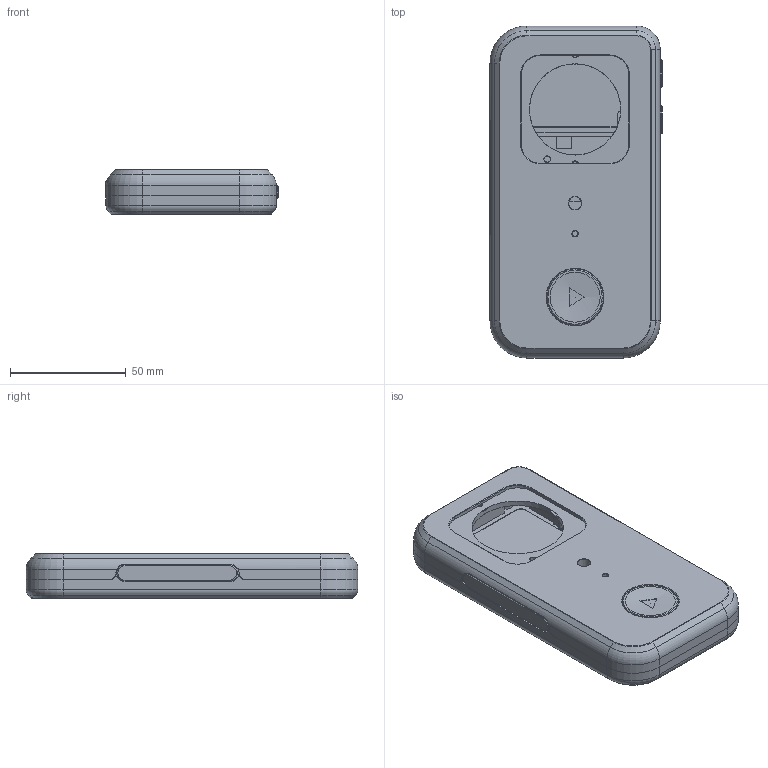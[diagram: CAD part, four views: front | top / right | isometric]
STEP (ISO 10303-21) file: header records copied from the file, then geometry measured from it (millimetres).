
FILE_DESCRIPTION(('Open CASCADE Model'),'2;1');
FILE_NAME('Open CASCADE Shape Model','2026-09-21T11:06:54',('Author'),( 'Open CASCADE'),'Open CASCADE STEP processor 7.7','Open CASCADE 7.7' ,'Unknown');
FILE_SCHEMA(('AUTOMOTIVE_DESIGN { 1 0 10303 214 1 1 1 1 }'));
Length unit declared in the file: millimetre
Products named in the file (44): WalkieOne_v31_Printed_Parts; Back; Back_part; Front; Front_part; LED_retainer; LED_retainer_part; PTT_Link_1; PTT_Link_1_part; PTT_Link_2; PTT_Link_2_part; PTT_Pivot_sleeve_fixed_1; PTT_Pivot_sleeve_fixed_1_part; PTT_Pivot_sleeve_fixed_2; PTT_Pivot_sleeve_fixed_2_part; PTT_Pivot_sleeve_moving_1; PTT_Pivot_sleeve_moving_1_part; PTT_Pivot_sleeve_moving_2; PTT_Pivot_sleeve_moving_2_part; PTT_cap; PTT_cap_part; PTT_switch_retainer; PTT_switch_retainer_part; PTT_switch_seat; PTT_switch_seat_part; Play_cap; Play_cap_part; Play_carrier; Play_carrier_part; Play_retainer; Play_retainer_part; Speaker_spacers_reference; Speaker_spacers_reference_part; USB_collar; USB_collar_part; Volume_down_cap; Volume_down_cap_part; Volume_guide_frame; Volume_guide_frame_part; Volume_rear_seat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
Assembly tree (43 placements, depth 4):
  WalkieOne_v31_Printed_Parts
    WalkieOne_v31_Printed_Parts
      Back
        Back_part
      Front
        Front_part
      LED_retainer
        LED_retainer_part
      PTT_Link_1
        PTT_Link_1_part
      PTT_Link_2
        PTT_Link_2_part
      PTT_Pivot_sleeve_fixed_1
        PTT_Pivot_sleeve_fixed_1_part
      PTT_Pivot_sleeve_fixed_2
        PTT_Pivot_sleeve_fixed_2_part
      PTT_Pivot_sleeve_moving_1
        PTT_Pivot_sleeve_moving_1_part
      PTT_Pivot_sleeve_moving_2
        PTT_Pivot_sleeve_moving_2_part
      PTT_cap
        PTT_cap_part
      PTT_switch_retainer
        PTT_switch_retainer_part
      PTT_switch_seat
        PTT_switch_seat_part
      Play_cap
        Play_cap_part
      Play_carrier
        Play_carrier_part
      Play_retainer
        Play_retainer_part
      Speaker_spacers_reference
        Speaker_spacers_reference_part
      USB_collar
        USB_collar_part
      Volume_down_cap
        Volume_down_cap_part
      Volume_guide_frame
        Volume_guide_frame_part
      Volume_rear_seat
        Volume_rear_seat_part
      Volume_up_cap
        Volume_up_cap_part
Bounding box: 74.3 x 143.25 x 19.4 mm (x, y, z)
Volume: 70629.8 mm3; surface area: 71221.5 mm2
Topology: 22 solids, 22 shells, 2141 faces, 5960 edges, 3878 vertices
Faces by surface type: plane 1461, cylinder 466, cone 72, sphere 67, torus 61, bspline 13, revolution 1
Full cylindrical faces by diameter (mm): 0.6 x6, 0.84 x6, 2.2 x2, 2.3 x14, 2.4 x17, 2.6 x6, 2.8 x2, 2.9 x24, 3.6 x1, 4 x5, 4.1 x4, 4.4 x4, 5 x2, 5.5 x1, 5.6 x1, 6.4 x5, 6.5 x1, 6.6 x4, 7.2 x6, 8 x2, 9.4 x1, 12 x1, 18 x1, 19 x1, 19.4 x1, 21.8 x1, 24 x1, 24.5 x1, 31 x1, 34.4 x1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
Entity records: 159354 total; most frequent: CARTESIAN_POINT 45348, DIRECTION 19680, ORIENTED_EDGE 11842, PCURVE 11842, DEFINITIONAL_REPRESENTATION 11842, LINE 11765, VECTOR 11765, EDGE_CURVE 5921
